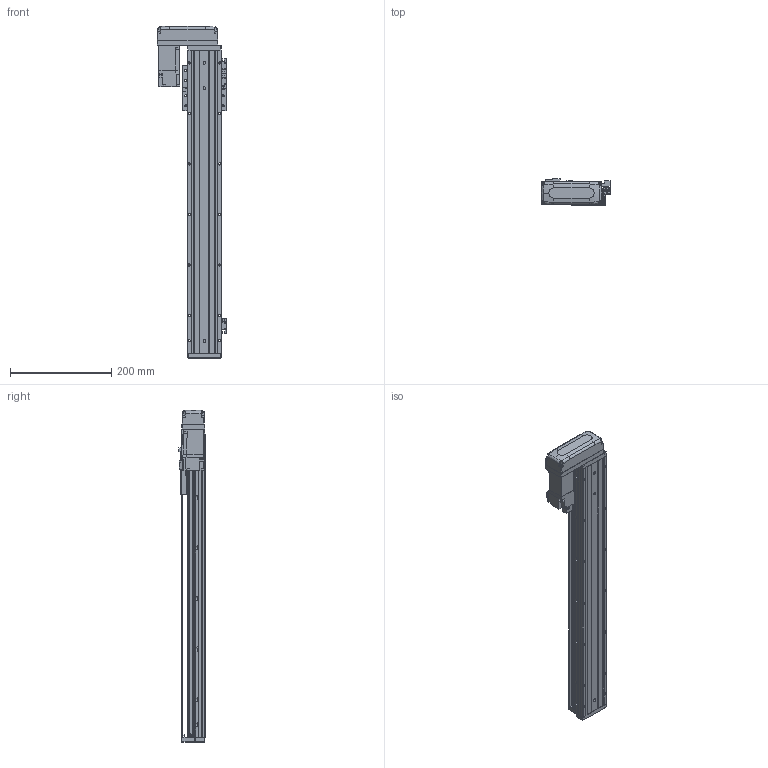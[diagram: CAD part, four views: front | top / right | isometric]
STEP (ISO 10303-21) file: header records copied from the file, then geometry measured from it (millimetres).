
FILE_DESCRIPTION (( 'STEP AP203' ), '1' );
FILE_NAME ('KTHAL60-450-BR-M10-C4L.step', '2022-03-19T08:44:33', ( '微软用户' ), ( '微软中国' ), 'SwSTEP 2.0', 'SolidWorks 2020', '' );
FILE_SCHEMA (( 'CONFIG_CONTROL_DESIGN' ));
Length unit declared in the file: millimetre
Products named in the file (18): GB¨uT 70.2-M3¡Á5_M3¡Á6; GBT 70.1-M3℅6; GBT 70.3-M3℅6; CTHA60-016; EE_SX911P_R; HG-KR13（三菱）; KTHA60-001_600; CTHA60-017; CTHA60-015-2_CTHA60-015-2; KTHLA60-002; CTHA60-021; CTHA60-033; KTHA60-004; GBT 70.1-M4×16; GBT 70.1-M3×15; KTHA60-005; GBT77-2000M3-3; KTHAL60-450-BR-M10-C4L
Assembly tree (51 placements, depth 2):
  KTHAL60-450-BR-M10-C4L
    KTHA60-001_600
    KTHLA60-002
    KTHA60-004
    KTHA60-005
    GB¨uT 70.2-M3¡Á5_M3¡Á6  x5
    GBT 70.3-M3℅6  x4
    EE_SX911P_R  x3
    CTHA60-017  x3
    CTHA60-021  x2
    GBT 70.1-M4×16  x10
    GBT77-2000M3-3  x6
    GBT 70.1-M3℅6  x6
    CTHA60-016
    HG-KR13（三菱）
    CTHA60-015-2_CTHA60-015-2
    CTHA60-033
    GBT 70.1-M3×15  x4
Bounding box: 137.82 x 52.3 x 657 mm (x, y, z)
Volume: 1452351.6 mm3; surface area: 358675.9 mm2
Topology: 54 solids, 54 shells, 2295 faces, 5443 edges, 3341 vertices
Faces by surface type: plane 1312, cylinder 559, cone 286, torus 98, bspline 26, sphere 14
Entity records: 39993 total; most frequent: CARTESIAN_POINT 7560, DIRECTION 6243, ORIENTED_EDGE 6030, EDGE_CURVE 3015, AXIS2_PLACEMENT_3D 2091, VECTOR 2061, LINE 2061, VERTEX_POINT 1890
